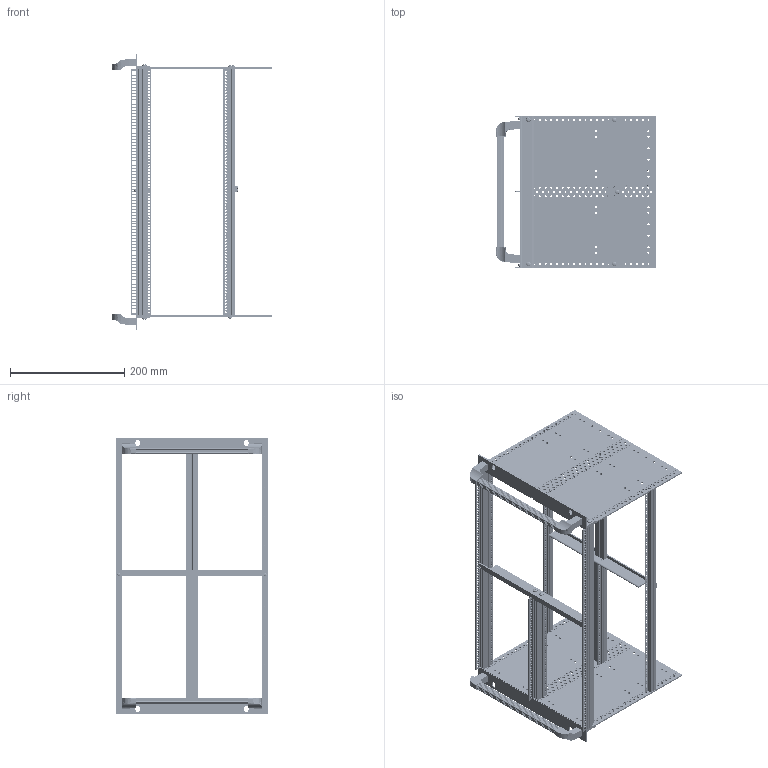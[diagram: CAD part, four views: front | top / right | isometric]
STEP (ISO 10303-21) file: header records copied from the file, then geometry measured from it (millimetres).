
FILE_DESCRIPTION(('OneSpaceDesigner STEP Export'),'2;1');
FILE_NAME('24561534.stp','2011-02-17T 8:54:39',(''),(''),'OneSpace Designer STEP processor for AP214 (Solid Model)','OneSpace Modeling 15.50A 21-Sep-2007 (C) CoCreate Software GmbH','');
FILE_SCHEMA(('AUTOMOTIVE_DESIGN { 1 0 10303 214 1 1 1 1 }'));
Length unit declared in the file: millimetre
Products named in the file (25): 0240051_Gewindeleiste_85TE_7x2_M2.1; 024101301_Modulschiene_85TE_Bus; 0630096_Linsenschraube_M4x12St.1.1; 024102203_Modulschiene_43TE_Standard.1; 024101303_Modulschiene_43TE_BUS; 024102003_BUS_Tragschiene_L_210_8; 0241087_Montagestrebe_Standart; 0241089_Montagestrebe_BUS; 061133701_Griffrohr_6HE.1; 061130002_Kopfstück_für_Griffrohr; 061130001_Kopfstück_für_Griffrohr; 024100206_Frontwinkel_6HE; 0630121_Senkschr_M5x12St.3; 0630119_Senkschr_M4x10St; 0240061_Gewindeleiste_85TE_5x1.5_M2.1; 0240053_Gewindeleiste_43TE_7x2_M2; 025006041_Gewindeleiste_41TE_5x1.5_M2.5; 0240063_Gewindeleiste_43TE_5x1.5_M2.1; 0630094_Linsenschraube_M2_5x10St.1; 0630092_Linsenschraube_M2_5x6St; 0630152_U_scheibe_2.1.1.1.1; 024104985_Modsch10mmdach_85TE; 024104943_Modulschiene_43TE_Standard; 024560250_Seitenwand_6HE_T_236.3; 024561534_Internet
Assembly tree (64 placements, depth 2):
  024561534_Internet
    024560250_Seitenwand_6HE_T_236.3  x2
    024104943_Modulschiene_43TE_Standard
    024104985_Modsch10mmdach_85TE  x2
    0630096_Linsenschraube_M4x12St.1.1  x15
    0630152_U_scheibe_2.1.1.1.1  x6
    0630092_Linsenschraube_M2_5x6St  x4
    0630094_Linsenschraube_M2_5x10St.1  x2
    0240063_Gewindeleiste_43TE_5x1.5_M2.1  x2
    025006041_Gewindeleiste_41TE_5x1.5_M2.5  x2
    0240053_Gewindeleiste_43TE_7x2_M2  x2
    0240061_Gewindeleiste_85TE_5x1.5_M2.1  x2
    0630119_Senkschr_M4x10St  x2
    0630121_Senkschr_M5x12St.3  x4
    024100206_Frontwinkel_6HE  x2
    061130001_Kopfstück_für_Griffrohr  x2
    061130002_Kopfstück_für_Griffrohr  x2
    061133701_Griffrohr_6HE.1  x2
    0241089_Montagestrebe_BUS
    0241087_Montagestrebe_Standart
    024102003_BUS_Tragschiene_L_210_8
    024101303_Modulschiene_43TE_BUS  x2
    024102203_Modulschiene_43TE_Standard.1
    024101301_Modulschiene_85TE_Bus  x2
    0240051_Gewindeleiste_85TE_7x2_M2.1  x2
Bounding box: 279.58 x 266 x 482.1 mm (x, y, z)
Volume: 778821.6 mm3; surface area: 772084.4 mm2
Topology: 64 solids, 64 shells, 9045 faces, 25435 edges, 16914 vertices
Faces by surface type: plane 4237, cylinder 3198, cone 1514, torus 62, bspline 30, extrusion 4
Entity records: 147081 total; most frequent: CARTESIAN_POINT 27058, ORIENTED_EDGE 26290, DIRECTION 22437, EDGE_CURVE 13145, VERTEX_POINT 8742, VECTOR 8127, LINE 8125, AXIS2_PLACEMENT_3D 7155
